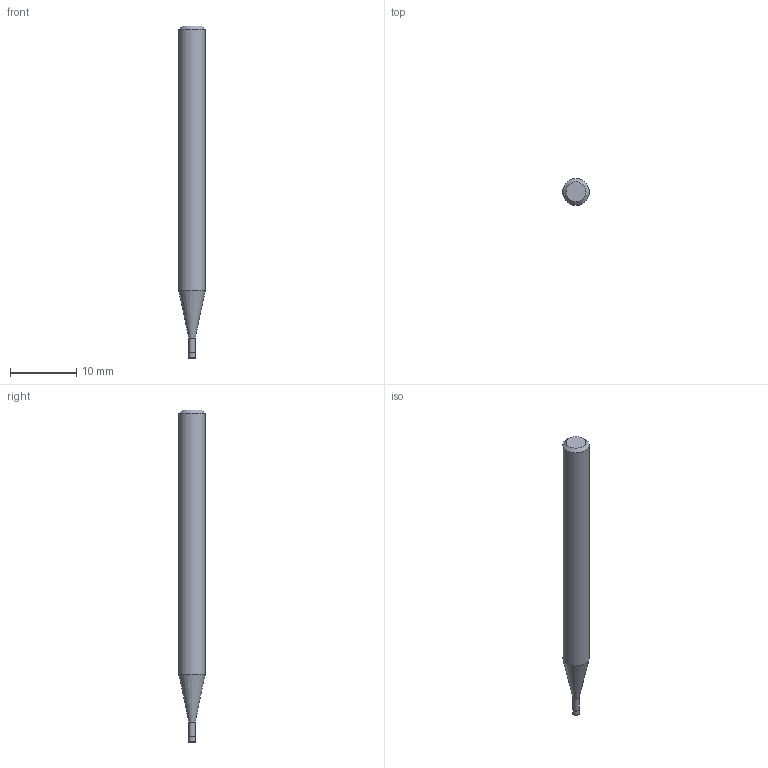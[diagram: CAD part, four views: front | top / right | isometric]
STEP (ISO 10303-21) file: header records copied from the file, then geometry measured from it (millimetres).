
FILE_DESCRIPTION((''),'2;1');
FILE_NAME('C:\Users\nsx150\AppData\Local\Temp\Mastercam 2021\3SYKECWX22\TEMP.step','2021-04-22T09:46:43',(''),(''),'STEP Write','Mastercam 2021 ... CNC Software, Inc.','');
FILE_SCHEMA(('AUTOMOTIVE_DESIGN'));
Length unit declared in the file: millimetre
Products named in the file (1): None
Bounding box: 4 x 4 x 50 mm (x, y, z)
Volume: 540.1 mm3; surface area: 577.4 mm2
Topology: 2 solids, 2 shells, 10 faces, 14 edges, 8 vertices
Faces by surface type: plane 4, cylinder 3, cone 2, torus 1
Full cylindrical faces by diameter (mm): 0.95 x1, 1 x1, 4 x1
Entity records: 232 total; most frequent: DIRECTION 40, CARTESIAN_POINT 28, AXIS2_PLACEMENT_3D 20, ORIENTED_EDGE 16, EDGE_LOOP 16, STYLED_ITEM 13, ADVANCED_FACE 10, FACE_BOUND 10
